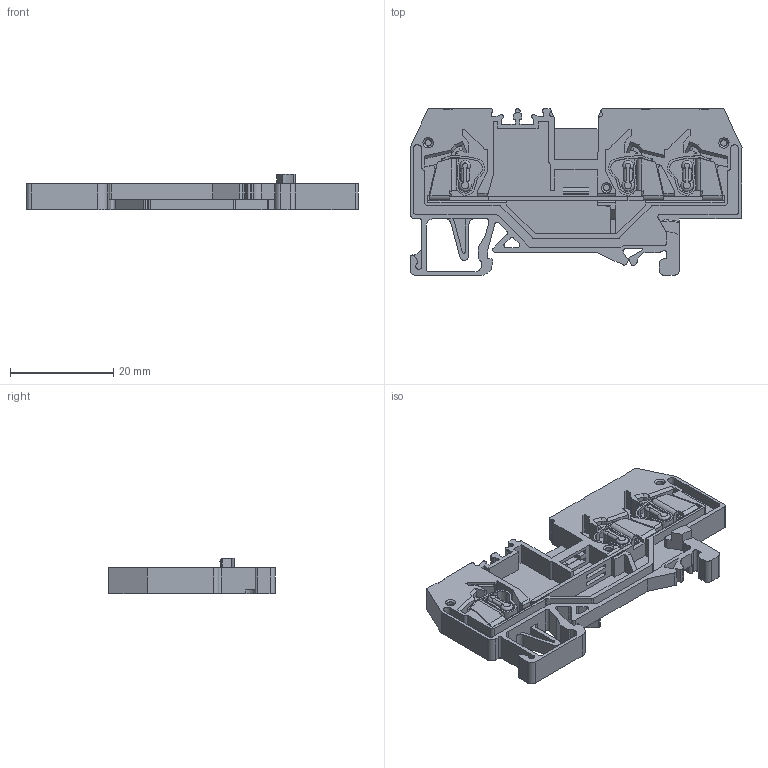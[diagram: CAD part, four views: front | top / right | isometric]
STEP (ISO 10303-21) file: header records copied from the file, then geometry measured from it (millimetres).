
FILE_DESCRIPTION (( 'STEP AP203' ), '1' );
FILE_NAME ('ﾊﾏﾐ1-2,5ﾂ-3ﾂ.STEP', '2019-03-01T12:57:25', ( '' ), ( '' ), 'SwSTEP 2.0', 'SolidWorks 2016', '' );
FILE_SCHEMA (( 'CONFIG_CONTROL_DESIGN' ));
Length unit declared in the file: millimetre
Products named in the file (1): ﾊﾏﾐ1-2,5ﾂ-3ﾂ
Bounding box: 64.21 x 32.22 x 6.8 mm (x, y, z)
Volume: 3946.3 mm3; surface area: 8961.2 mm2
Topology: 5 solids, 5 shells, 1014 faces, 2835 edges, 1847 vertices
Faces by surface type: plane 648, cylinder 259, bspline 76, cone 22, torus 9
Full cylindrical faces by diameter (mm): 1.4 x3, 1.6 x3
Entity records: 37134 total; most frequent: CARTESIAN_POINT 11332, ORIENTED_EDGE 5634, DIRECTION 4943, EDGE_CURVE 2817, LINE 2051, VECTOR 2051, VERTEX_POINT 1847, AXIS2_PLACEMENT_3D 1446
